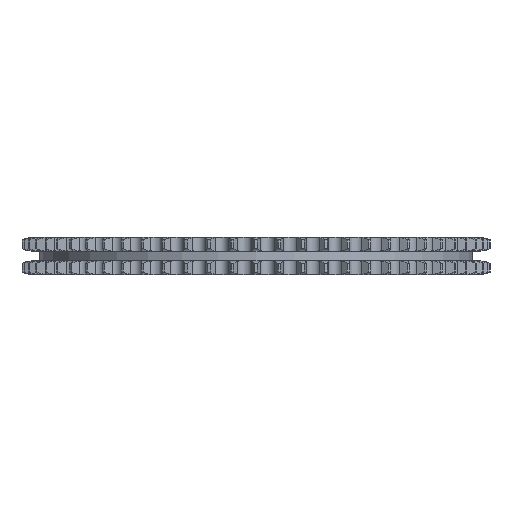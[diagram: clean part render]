
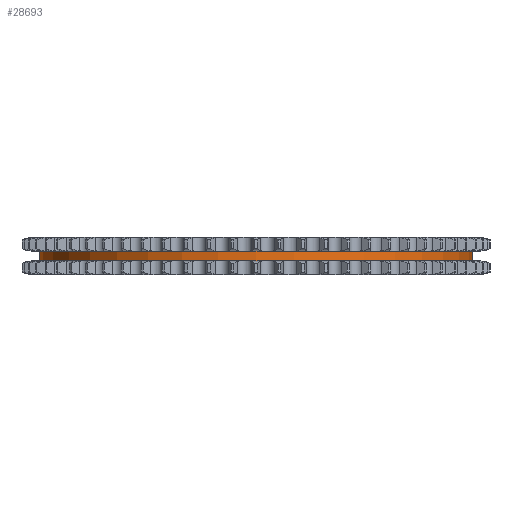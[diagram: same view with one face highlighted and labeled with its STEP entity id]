
A CAD part, left-side view. The second image highlights one B-rep face of the part: STEP entity #28693.
In plain terms, the highlighted cylindrical face has radius 177.058 mm (diameter 354.117 mm), a partial arc.
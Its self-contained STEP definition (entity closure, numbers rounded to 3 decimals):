
#5636=DIRECTION('',(0.,0.,-1.));
#5637=VECTOR('',#5636,8.1);
#5638=CARTESIAN_POINT('',(0.,177.058,4.05));
#5639=LINE('',#5638,#5637);
#5643=CARTESIAN_POINT('',(0.,0.,4.05));
#5644=DIRECTION('',(0.,0.,1.));
#5645=DIRECTION('',(0.,1.,0.));
#5646=AXIS2_PLACEMENT_3D('',#5643,#5644,#5645);
#5651=DIRECTION('',(0.,0.,-1.));
#5652=VECTOR('',#5651,8.1);
#5653=CARTESIAN_POINT('',(0.,-177.058,4.05));
#5654=LINE('',#5653,#5652);
#5658=CARTESIAN_POINT('',(0.,0.,-4.05));
#5659=DIRECTION('',(0.,0.,1.));
#5660=DIRECTION('',(0.,1.,0.));
#5661=AXIS2_PLACEMENT_3D('',#5658,#5659,#5660);
#23116=CARTESIAN_POINT('',(0.,177.058,4.05));
#23117=CARTESIAN_POINT('',(0.,177.058,-4.05));
#23118=VERTEX_POINT('',#23116);
#23119=VERTEX_POINT('',#23117);
#23120=CARTESIAN_POINT('',(0.,-177.058,4.05));
#23121=CARTESIAN_POINT('',(0.,-177.058,-4.05));
#23122=VERTEX_POINT('',#23120);
#23123=VERTEX_POINT('',#23121);
#28681=CARTESIAN_POINT('',(0.,0.,4.455));
#28682=DIRECTION('',(0.,0.,-1.));
#28683=DIRECTION('',(0.,-1.,0.));
#28684=AXIS2_PLACEMENT_3D('',#28681,#28682,#28683);
#28685=CYLINDRICAL_SURFACE('',#28684,177.058);
#28686=ORIENTED_EDGE('',*,*,#28671,.F.);
#28687=ORIENTED_EDGE('',*,*,#28661,.T.);
#28688=ORIENTED_EDGE('',*,*,#28675,.T.);
#28690=ORIENTED_EDGE('',*,*,#28689,.F.);
#28691=EDGE_LOOP('',(#28686,#28687,#28688,#28690));
#28692=FACE_OUTER_BOUND('',#28691,.F.);
#28693=ADVANCED_FACE('',(#28692),#28685,.T.);
#5647=CIRCLE('',#5646,177.058);
#5662=CIRCLE('',#5661,177.058);
#28661=EDGE_CURVE('',#23118,#23122,#5647,.T.);
#28671=EDGE_CURVE('',#23118,#23119,#5639,.T.);
#28675=EDGE_CURVE('',#23122,#23123,#5654,.T.);
#28689=EDGE_CURVE('',#23119,#23123,#5662,.T.);
